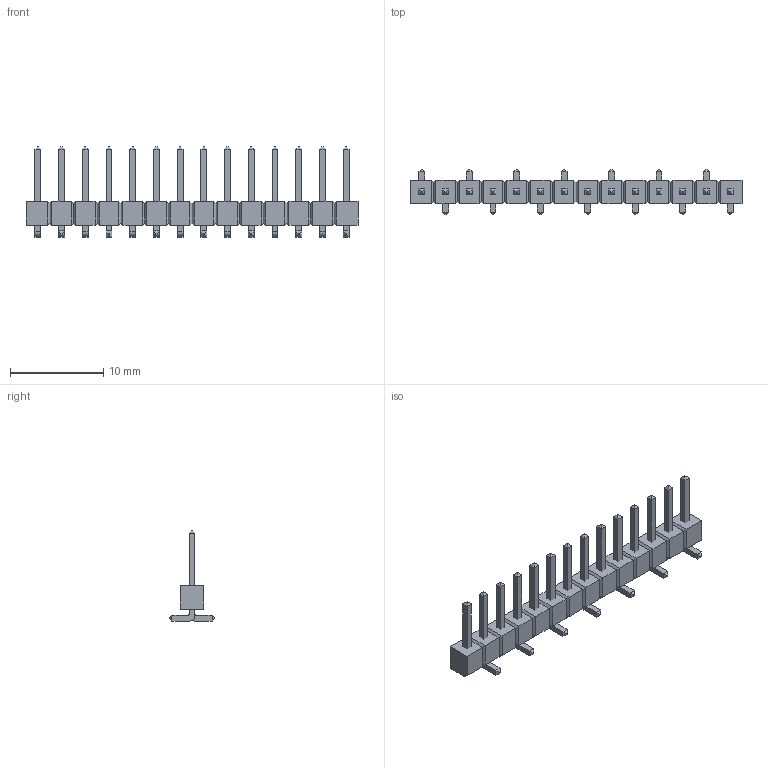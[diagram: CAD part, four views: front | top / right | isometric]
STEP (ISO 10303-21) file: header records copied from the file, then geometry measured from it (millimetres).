
FILE_DESCRIPTION(('FreeCAD Model'),'2;1');
FILE_NAME('/var/www/3D/0T/274277.2.1.stp','2020-08-14T12:03:58',( 'Author'),(''),'Open CASCADE STEP processor 6.9','FreeCAD','Unknown' );
FILE_SCHEMA(('AUTOMOTIVE_DESIGN { 1 0 10303 214 1 1 1 1 }'));
Length unit declared in the file: millimetre
Products named in the file (4): ASSEMBLY; Body; OddLeadsArray; EvenLeadsArray
Assembly tree (3 placements, depth 2):
  ASSEMBLY
    Body
    OddLeadsArray
    EvenLeadsArray
Bounding box: 35.56 x 4.82 x 9.65 mm (x, y, z)
Volume: 288.1 mm3; surface area: 805.4 mm2
Topology: 15 solids, 15 shells, 414 faces, 884 edges, 500 vertices
Faces by surface type: plane 386, cylinder 28
Entity records: 22164 total; most frequent: CARTESIAN_POINT 3946, DIRECTION 3308, LINE 2332, VECTOR 2332, ORIENTED_EDGE 1768, PCURVE 1768, DEFINITIONAL_REPRESENTATION 1768, EDGE_CURVE 884
